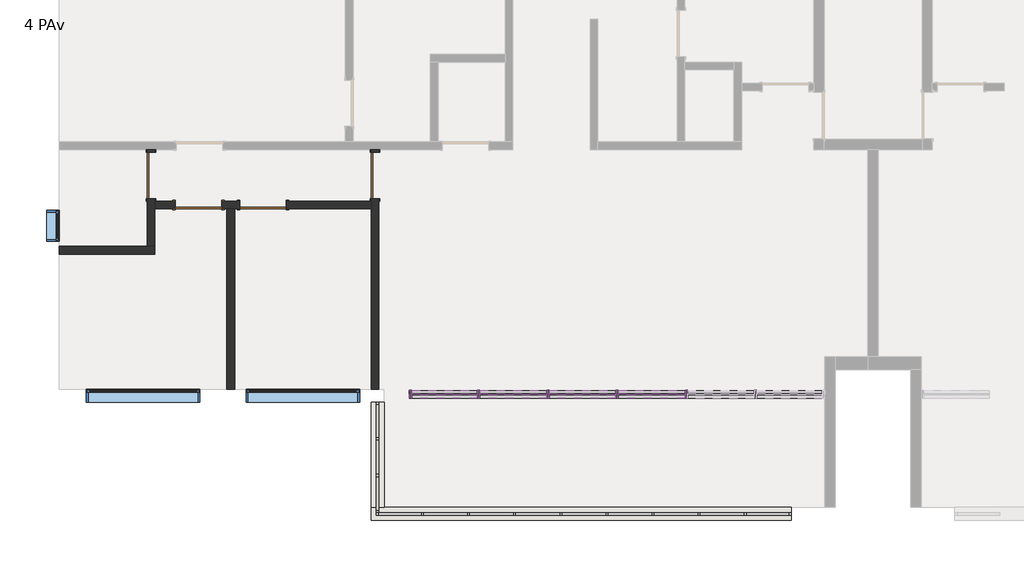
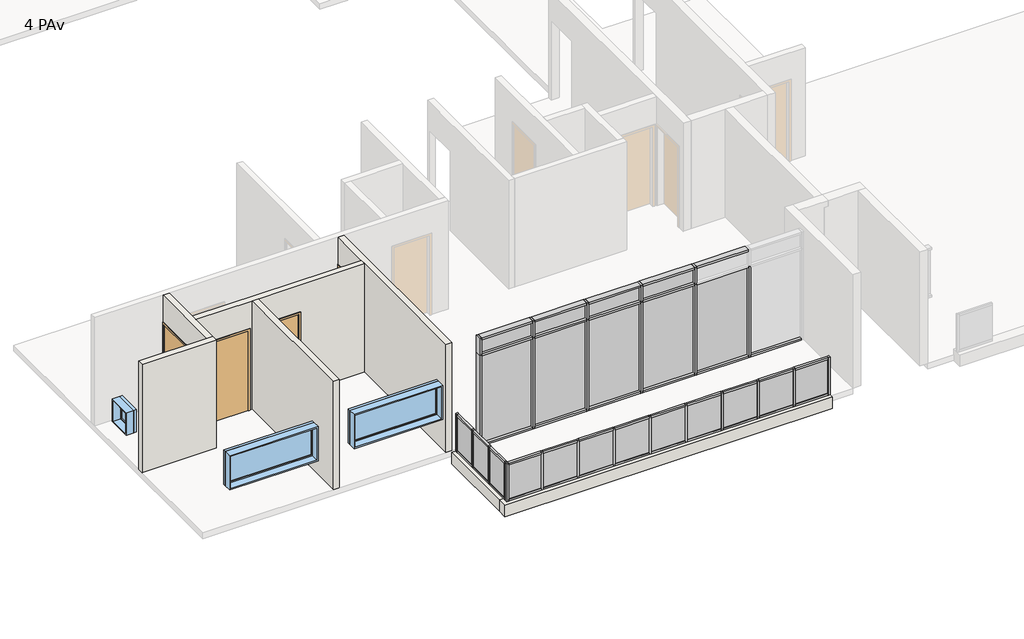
# One storey, part 1 of 6: 64 members, 21 plates, 7 walls, 4 doors, 3 windows.
"""IFC4 building model written with IfcOpenShell, lengths in millimetres."""

from ifc_helpers import new_model, si_unit, frame, origin, place, context, project, spatial, polyline, outline, extrude, faceted_brep, transform, mapped, element, save
from components import door_90_x_210_ee935524, door_90_x_210_565370b3, montante_retangular_50_mm_quadrado_84e40a56, montante_retangular_50_mm_quadrado_3d152aff, montante_retangular_50_mm_quadrado_a01005a4, montante_retangular_50_mm_quadrado_ddd80bd7, montante_retangular_50_mm_quadrado_4acded50, montante_retangular_50_mm_quadrado_237d7072, montante_retangular_50_x_150_mm_6217edde, montante_retangular_50_x_150_mm_a22249d7, montante_retangular_50_x_150_mm_6225e4e3, montante_retangular_50_x_150_mm_567eccab, montante_retangular_50_x_150_mm_1ca2bba2, montante_retangular_50_x_150_mm_6abf4531, montante_retangular_50_x_150_mm_0a8c3443, montante_retangular_50_x_150_mm_662c37b1, painel_do_sistema_0196877a, painel_do_sistema_2aa81470, painel_do_sistema_57ceaf50, painel_do_sistema_ab0ed719, painel_do_sistema_1ecb5f42, painel_do_sistema_49db1829, painel_do_sistema_5ea5287b, painel_do_sistema_7730abee, window_0610_x_0610_mm_da1d4716, window_220_x_90_cea65aae

model = new_model("IFC4")

# Units and contexts
model_context = context("Model", 3, world=origin())
ifc_project = project(units=[si_unit("LENGTHUNIT", "METRE", prefix="MILLI")], contexts=[model_context])

# Site, building, storey
site = spatial("IfcSite", under=ifc_project)
building = spatial("IfcBuilding", under=site)
storey = spatial("IfcBuildingStorey", under=building, Name="4 PAv", Elevation=12000.0)

# Doors
placement = place(None, origin())
door_90_x_210_shape = door_90_x_210_ee935524(model_context)
element("IfcDoor", 1, ObjectType="M_Descarga simples : 90 x 210", at=placement, inside=storey, context=model_context, shape_type="MappedRepresentation", body=[
    mapped(door_90_x_210_shape, transform((-10691.2265742, -8286.3385375, 12000.0), x_axis=(0.0, 1.0, 0.0), y_axis=(-1.0, 0.0, 0.0), z_axis=(0.0, 0.0, 1.0))),
])
element("IfcDoor", 2, ObjectType="M_Descarga simples : 90 x 210", at=placement, inside=storey, context=model_context, shape_type="MappedRepresentation", body=[
    mapped(door_90_x_210_shape, transform((-15041.2265742, -8286.3385375, 12000.0), x_axis=(0.0, 1.0, 0.0), y_axis=(-1.0, 0.0, 0.0), z_axis=(0.0, 0.0, 1.0))),
])
element("IfcDoor", 3, ObjectType="M_Descarga simples : 90 x 210", at=placement, inside=storey, context=model_context, shape_type="MappedRepresentation", body=[
    mapped(door_90_x_210_shape, transform((-12866.2265742, -8861.3385375, 12000.0), x_axis=(-1.0, 0.0, 0.0), y_axis=(0.0, -1.0, 0.0), z_axis=(0.0, 0.0, 1.0))),
])
door_90_x_210_2_shape = door_90_x_210_565370b3(model_context)
element("IfcDoor", 4, ObjectType="M_Descarga simples : 90 x 210", at=placement, inside=storey, context=model_context, shape_type="MappedRepresentation", body=[
    mapped(door_90_x_210_2_shape, transform((-14116.2265742, -8861.3385375, 12000.0), x_axis=(1.0, 0.0, 0.0), y_axis=(0.0, 1.0, 0.0), z_axis=(0.0, 0.0, 1.0))),
])

# Members
montante_retangular_50_mm_quadrado_shape = montante_retangular_50_mm_quadrado_84e40a56(model_context)
element("IfcMember", 5, ObjectType="Montante retangular : 50 mm Quadrado", at=placement, inside=storey, context=model_context, shape_type="MappedRepresentation", body=[
    mapped(montante_retangular_50_mm_quadrado_shape, transform((-3506.2265742, -14856.3385375, 12150.0), x_axis=(-1.0, 0.0, 0.0), y_axis=(0.0, 1.0, 0.0), z_axis=(0.0, 0.0, -1.0))),
])
element("IfcMember", 6, ObjectType="Montante retangular : 50 mm Quadrado", at=placement, inside=storey, context=model_context, shape_type="MappedRepresentation", body=[
    mapped(montante_retangular_50_mm_quadrado_shape, transform((-4401.2265742, -14856.3385375, 12150.0), x_axis=(-1.0, 0.0, 0.0), y_axis=(0.0, 1.0, 0.0), z_axis=(0.0, 0.0, -1.0))),
])
element("IfcMember", 7, ObjectType="Montante retangular : 50 mm Quadrado", at=placement, inside=storey, context=model_context, shape_type="MappedRepresentation", body=[
    mapped(montante_retangular_50_mm_quadrado_shape, transform((-5296.2265742, -14856.3385375, 12150.0), x_axis=(-1.0, 0.0, 0.0), y_axis=(0.0, 1.0, 0.0), z_axis=(0.0, 0.0, -1.0))),
])
element("IfcMember", 8, ObjectType="Montante retangular : 50 mm Quadrado", at=placement, inside=storey, context=model_context, shape_type="MappedRepresentation", body=[
    mapped(montante_retangular_50_mm_quadrado_shape, transform((-6191.2265742, -14856.3385375, 12150.0), x_axis=(-1.0, 0.0, 0.0), y_axis=(0.0, 1.0, 0.0), z_axis=(0.0, 0.0, -1.0))),
])
element("IfcMember", 9, ObjectType="Montante retangular : 50 mm Quadrado", at=placement, inside=storey, context=model_context, shape_type="MappedRepresentation", body=[
    mapped(montante_retangular_50_mm_quadrado_shape, transform((-7086.2265742, -14856.3385375, 12150.0), x_axis=(-1.0, 0.0, 0.0), y_axis=(0.0, 1.0, 0.0), z_axis=(0.0, 0.0, -1.0))),
])
element("IfcMember", 10, ObjectType="Montante retangular : 50 mm Quadrado", at=placement, inside=storey, context=model_context, shape_type="MappedRepresentation", body=[
    mapped(montante_retangular_50_mm_quadrado_shape, transform((-7981.2265742, -14856.3385375, 12150.0), x_axis=(-1.0, 0.0, 0.0), y_axis=(0.0, 1.0, 0.0), z_axis=(0.0, 0.0, -1.0))),
])
element("IfcMember", 11, ObjectType="Montante retangular : 50 mm Quadrado", at=placement, inside=storey, context=model_context, shape_type="MappedRepresentation", body=[
    mapped(montante_retangular_50_mm_quadrado_shape, transform((-8876.2265742, -14856.3385375, 12150.0), x_axis=(-1.0, 0.0, 0.0), y_axis=(0.0, 1.0, 0.0), z_axis=(0.0, 0.0, -1.0))),
])
element("IfcMember", 12, ObjectType="Montante retangular : 50 mm Quadrado", at=placement, inside=storey, context=model_context, shape_type="MappedRepresentation", body=[
    mapped(montante_retangular_50_mm_quadrado_shape, transform((-9771.2265742, -14856.3385375, 12150.0), x_axis=(-1.0, 0.0, 0.0), y_axis=(0.0, 1.0, 0.0), z_axis=(0.0, 0.0, -1.0))),
])
element("IfcMember", 13, ObjectType="Montante retangular : 50 mm Quadrado", at=placement, inside=storey, context=model_context, shape_type="MappedRepresentation", body=[
    mapped(montante_retangular_50_mm_quadrado_shape, transform((-10641.2265742, -14116.3385375, 12150.0), x_axis=(0.0, 1.0, 0.0), y_axis=(1.0, 0.0, 0.0), z_axis=(0.0, 0.0, -1.0))),
])
element("IfcMember", 14, ObjectType="Montante retangular : 50 mm Quadrado", at=placement, inside=storey, context=model_context, shape_type="MappedRepresentation", body=[
    mapped(montante_retangular_50_mm_quadrado_shape, transform((-10641.2265742, -13401.3385375, 12150.0), x_axis=(0.0, 1.0, 0.0), y_axis=(1.0, 0.0, 0.0), z_axis=(0.0, 0.0, -1.0))),
])
montante_retangular_50_mm_quadrado_2_shape = montante_retangular_50_mm_quadrado_3d152aff(model_context)
element("IfcMember", 15, ObjectType="Montante retangular : 50 mm Quadrado", at=placement, inside=storey, context=model_context, shape_type="MappedRepresentation", body=[
    mapped(montante_retangular_50_mm_quadrado_2_shape, transform((-10666.2265742, -14856.3385375, 12150.0), x_axis=(-1.0, 0.0, 0.0), y_axis=(0.0, 1.0, 0.0), z_axis=(0.0, 0.0, -1.0))),
])
element("IfcMember", 16, ObjectType="Montante retangular : 50 mm Quadrado", at=placement, inside=storey, context=model_context, shape_type="MappedRepresentation", body=[
    mapped(montante_retangular_50_mm_quadrado_2_shape, transform((-10641.2265742, -12686.3385375, 12150.0), x_axis=(0.0, 1.0, 0.0), y_axis=(1.0, 0.0, 0.0), z_axis=(0.0, 0.0, -1.0))),
])
element("IfcMember", 17, ObjectType="Montante retangular : 50 mm Quadrado", at=placement, inside=storey, context=model_context, shape_type="MappedRepresentation", body=[
    mapped(montante_retangular_50_mm_quadrado_2_shape, transform((-2611.2265742, -14856.3385375, 13150.0), x_axis=(1.0, 0.0, 0.0), y_axis=(0.0, 1.0, 0.0), z_axis=(0.0, 0.0, 1.0))),
])
element("IfcMember", 18, ObjectType="Montante retangular : 50 mm Quadrado", at=placement, inside=storey, context=model_context, shape_type="MappedRepresentation", body=[
    mapped(montante_retangular_50_mm_quadrado_2_shape, transform((-10641.2265742, -14831.3385375, 13150.0), x_axis=(0.0, -1.0, 0.0), y_axis=(1.0, 0.0, 0.0), z_axis=(0.0, 0.0, 1.0))),
])
montante_retangular_50_mm_quadrado_3_shape = montante_retangular_50_mm_quadrado_a01005a4(model_context)
element("IfcMember", 19, ObjectType="Montante retangular : 50 mm Quadrado", at=placement, inside=storey, context=model_context, shape_type="MappedRepresentation", body=[
    mapped(montante_retangular_50_mm_quadrado_3_shape, transform((-10641.2265742, -12736.3385375, 13150.0), x_axis=(0.0, 0.0, 1.0), y_axis=(1.0, 0.0, 0.0), z_axis=(0.0, 1.0, 0.0))),
])
element("IfcMember", 20, ObjectType="Montante retangular : 50 mm Quadrado", at=placement, inside=storey, context=model_context, shape_type="MappedRepresentation", body=[
    mapped(montante_retangular_50_mm_quadrado_3_shape, transform((-10641.2265742, -14141.3385375, 13150.0), x_axis=(0.0, 0.0, 1.0), y_axis=(1.0, 0.0, 0.0), z_axis=(0.0, 1.0, 0.0))),
])
montante_retangular_50_mm_quadrado_4_shape = montante_retangular_50_mm_quadrado_ddd80bd7(model_context)
element("IfcMember", 21, ObjectType="Montante retangular : 50 mm Quadrado", at=placement, inside=storey, context=model_context, shape_type="MappedRepresentation", body=[
    mapped(montante_retangular_50_mm_quadrado_4_shape, transform((-10641.2265742, -13426.3385375, 13150.0), x_axis=(0.0, 0.0, 1.0), y_axis=(1.0, 0.0, 0.0), z_axis=(0.0, 1.0, 0.0))),
])
element("IfcMember", 22, ObjectType="Montante retangular : 50 mm Quadrado", at=placement, inside=storey, context=model_context, shape_type="MappedRepresentation", body=[
    mapped(montante_retangular_50_mm_quadrado_3_shape, transform((-10641.2265742, -14781.3385375, 12150.0), x_axis=(0.0, 0.0, -1.0), y_axis=(1.0, 0.0, 0.0), z_axis=(0.0, -1.0, 0.0))),
])
element("IfcMember", 23, ObjectType="Montante retangular : 50 mm Quadrado", at=placement, inside=storey, context=model_context, shape_type="MappedRepresentation", body=[
    mapped(montante_retangular_50_mm_quadrado_3_shape, transform((-10641.2265742, -13376.3385375, 12150.0), x_axis=(0.0, 0.0, -1.0), y_axis=(1.0, 0.0, 0.0), z_axis=(0.0, -1.0, 0.0))),
])
element("IfcMember", 24, ObjectType="Montante retangular : 50 mm Quadrado", at=placement, inside=storey, context=model_context, shape_type="MappedRepresentation", body=[
    mapped(montante_retangular_50_mm_quadrado_4_shape, transform((-10641.2265742, -14091.3385375, 12150.0), x_axis=(0.0, 0.0, -1.0), y_axis=(1.0, 0.0, 0.0), z_axis=(0.0, -1.0, 0.0))),
])
montante_retangular_50_mm_quadrado_5_shape = montante_retangular_50_mm_quadrado_4acded50(model_context)
element("IfcMember", 25, ObjectType="Montante retangular : 50 mm Quadrado", at=placement, inside=storey, context=model_context, shape_type="MappedRepresentation", body=[
    mapped(montante_retangular_50_mm_quadrado_5_shape, transform((-10616.2265742, -14856.3385375, 13150.0), x_axis=(0.0, 0.0, 1.0), y_axis=(0.0, 1.0, 0.0), z_axis=(-1.0, 0.0, 0.0))),
])
element("IfcMember", 26, ObjectType="Montante retangular : 50 mm Quadrado", at=placement, inside=storey, context=model_context, shape_type="MappedRepresentation", body=[
    mapped(montante_retangular_50_mm_quadrado_5_shape, transform((-3481.2265742, -14856.3385375, 13150.0), x_axis=(0.0, 0.0, 1.0), y_axis=(0.0, 1.0, 0.0), z_axis=(-1.0, 0.0, 0.0))),
])
montante_retangular_50_mm_quadrado_6_shape = montante_retangular_50_mm_quadrado_237d7072(model_context)
element("IfcMember", 27, ObjectType="Montante retangular : 50 mm Quadrado", at=placement, inside=storey, context=model_context, shape_type="MappedRepresentation", body=[
    mapped(montante_retangular_50_mm_quadrado_6_shape, transform((-4376.2265742, -14856.3385375, 13150.0), x_axis=(0.0, 0.0, 1.0), y_axis=(0.0, 1.0, 0.0), z_axis=(-1.0, 0.0, 0.0))),
])
element("IfcMember", 28, ObjectType="Montante retangular : 50 mm Quadrado", at=placement, inside=storey, context=model_context, shape_type="MappedRepresentation", body=[
    mapped(montante_retangular_50_mm_quadrado_6_shape, transform((-5271.2265742, -14856.3385375, 13150.0), x_axis=(0.0, 0.0, 1.0), y_axis=(0.0, 1.0, 0.0), z_axis=(-1.0, 0.0, 0.0))),
])
element("IfcMember", 29, ObjectType="Montante retangular : 50 mm Quadrado", at=placement, inside=storey, context=model_context, shape_type="MappedRepresentation", body=[
    mapped(montante_retangular_50_mm_quadrado_6_shape, transform((-6166.2265742, -14856.3385375, 13150.0), x_axis=(0.0, 0.0, 1.0), y_axis=(0.0, 1.0, 0.0), z_axis=(-1.0, 0.0, 0.0))),
])
element("IfcMember", 30, ObjectType="Montante retangular : 50 mm Quadrado", at=placement, inside=storey, context=model_context, shape_type="MappedRepresentation", body=[
    mapped(montante_retangular_50_mm_quadrado_6_shape, transform((-7061.2265742, -14856.3385375, 13150.0), x_axis=(0.0, 0.0, 1.0), y_axis=(0.0, 1.0, 0.0), z_axis=(-1.0, 0.0, 0.0))),
])
element("IfcMember", 31, ObjectType="Montante retangular : 50 mm Quadrado", at=placement, inside=storey, context=model_context, shape_type="MappedRepresentation", body=[
    mapped(montante_retangular_50_mm_quadrado_6_shape, transform((-7956.2265742, -14856.3385375, 13150.0), x_axis=(0.0, 0.0, 1.0), y_axis=(0.0, 1.0, 0.0), z_axis=(-1.0, 0.0, 0.0))),
])
element("IfcMember", 32, ObjectType="Montante retangular : 50 mm Quadrado", at=placement, inside=storey, context=model_context, shape_type="MappedRepresentation", body=[
    mapped(montante_retangular_50_mm_quadrado_6_shape, transform((-8851.2265742, -14856.3385375, 13150.0), x_axis=(0.0, 0.0, 1.0), y_axis=(0.0, 1.0, 0.0), z_axis=(-1.0, 0.0, 0.0))),
])
element("IfcMember", 33, ObjectType="Montante retangular : 50 mm Quadrado", at=placement, inside=storey, context=model_context, shape_type="MappedRepresentation", body=[
    mapped(montante_retangular_50_mm_quadrado_6_shape, transform((-9746.2265742, -14856.3385375, 13150.0), x_axis=(0.0, 0.0, 1.0), y_axis=(0.0, 1.0, 0.0), z_axis=(-1.0, 0.0, 0.0))),
])
element("IfcMember", 34, ObjectType="Montante retangular : 50 mm Quadrado", at=placement, inside=storey, context=model_context, shape_type="MappedRepresentation", body=[
    mapped(montante_retangular_50_mm_quadrado_5_shape, transform((-2661.2265742, -14856.3385375, 12150.0), x_axis=(0.0, 0.0, -1.0), y_axis=(0.0, 1.0, 0.0), z_axis=(1.0, 0.0, 0.0))),
])
element("IfcMember", 35, ObjectType="Montante retangular : 50 mm Quadrado", at=placement, inside=storey, context=model_context, shape_type="MappedRepresentation", body=[
    mapped(montante_retangular_50_mm_quadrado_5_shape, transform((-9796.2265742, -14856.3385375, 12150.0), x_axis=(0.0, 0.0, -1.0), y_axis=(0.0, 1.0, 0.0), z_axis=(1.0, 0.0, 0.0))),
])
element("IfcMember", 36, ObjectType="Montante retangular : 50 mm Quadrado", at=placement, inside=storey, context=model_context, shape_type="MappedRepresentation", body=[
    mapped(montante_retangular_50_mm_quadrado_6_shape, transform((-3531.2265742, -14856.3385375, 12150.0), x_axis=(0.0, 0.0, -1.0), y_axis=(0.0, 1.0, 0.0), z_axis=(1.0, 0.0, 0.0))),
])
element("IfcMember", 37, ObjectType="Montante retangular : 50 mm Quadrado", at=placement, inside=storey, context=model_context, shape_type="MappedRepresentation", body=[
    mapped(montante_retangular_50_mm_quadrado_6_shape, transform((-4426.2265742, -14856.3385375, 12150.0), x_axis=(0.0, 0.0, -1.0), y_axis=(0.0, 1.0, 0.0), z_axis=(1.0, 0.0, 0.0))),
])
element("IfcMember", 38, ObjectType="Montante retangular : 50 mm Quadrado", at=placement, inside=storey, context=model_context, shape_type="MappedRepresentation", body=[
    mapped(montante_retangular_50_mm_quadrado_6_shape, transform((-5321.2265742, -14856.3385375, 12150.0), x_axis=(0.0, 0.0, -1.0), y_axis=(0.0, 1.0, 0.0), z_axis=(1.0, 0.0, 0.0))),
])
element("IfcMember", 39, ObjectType="Montante retangular : 50 mm Quadrado", at=placement, inside=storey, context=model_context, shape_type="MappedRepresentation", body=[
    mapped(montante_retangular_50_mm_quadrado_6_shape, transform((-6216.2265742, -14856.3385375, 12150.0), x_axis=(0.0, 0.0, -1.0), y_axis=(0.0, 1.0, 0.0), z_axis=(1.0, 0.0, 0.0))),
])
element("IfcMember", 40, ObjectType="Montante retangular : 50 mm Quadrado", at=placement, inside=storey, context=model_context, shape_type="MappedRepresentation", body=[
    mapped(montante_retangular_50_mm_quadrado_6_shape, transform((-7111.2265742, -14856.3385375, 12150.0), x_axis=(0.0, 0.0, -1.0), y_axis=(0.0, 1.0, 0.0), z_axis=(1.0, 0.0, 0.0))),
])
element("IfcMember", 41, ObjectType="Montante retangular : 50 mm Quadrado", at=placement, inside=storey, context=model_context, shape_type="MappedRepresentation", body=[
    mapped(montante_retangular_50_mm_quadrado_6_shape, transform((-8006.2265742, -14856.3385375, 12150.0), x_axis=(0.0, 0.0, -1.0), y_axis=(0.0, 1.0, 0.0), z_axis=(1.0, 0.0, 0.0))),
])
element("IfcMember", 42, ObjectType="Montante retangular : 50 mm Quadrado", at=placement, inside=storey, context=model_context, shape_type="MappedRepresentation", body=[
    mapped(montante_retangular_50_mm_quadrado_6_shape, transform((-8901.2265742, -14856.3385375, 12150.0), x_axis=(0.0, 0.0, -1.0), y_axis=(0.0, 1.0, 0.0), z_axis=(1.0, 0.0, 0.0))),
])
montante_retangular_50_x_150_mm_shape = montante_retangular_50_x_150_mm_6217edde(model_context)
element("IfcMember", 43, ObjectType="Montante retangular : 50 x 150 mm", at=placement, inside=storey, context=model_context, shape_type="MappedRepresentation", body=[
    mapped(montante_retangular_50_x_150_mm_shape, transform((-8707.0599075, -12536.3385375, 14850.0), x_axis=(0.0, 0.0, 1.0), y_axis=(0.0, -1.0, 0.0), z_axis=(1.0, 0.0, 0.0))),
])
montante_retangular_50_x_150_mm_2_shape = montante_retangular_50_x_150_mm_a22249d7(model_context)
element("IfcMember", 44, ObjectType="Montante retangular : 50 x 150 mm", at=placement, inside=storey, context=model_context, shape_type="MappedRepresentation", body=[
    mapped(montante_retangular_50_x_150_mm_2_shape, transform((-7362.8932408, -12536.3385375, 14850.0), x_axis=(0.0, 0.0, 1.0), y_axis=(0.0, -1.0, 0.0), z_axis=(1.0, 0.0, 0.0))),
])
element("IfcMember", 45, ObjectType="Montante retangular : 50 x 150 mm", at=placement, inside=storey, context=model_context, shape_type="MappedRepresentation", body=[
    mapped(montante_retangular_50_x_150_mm_2_shape, transform((-6018.7265742, -12536.3385375, 14850.0), x_axis=(0.0, 0.0, 1.0), y_axis=(0.0, -1.0, 0.0), z_axis=(1.0, 0.0, 0.0))),
])
element("IfcMember", 46, ObjectType="Montante retangular : 50 x 150 mm", at=placement, inside=storey, context=model_context, shape_type="MappedRepresentation", body=[
    mapped(montante_retangular_50_x_150_mm_2_shape, transform((-4674.5599075, -12536.3385375, 14850.0), x_axis=(0.0, 0.0, 1.0), y_axis=(0.0, -1.0, 0.0), z_axis=(1.0, 0.0, 0.0))),
])
element("IfcMember", 47, ObjectType="Montante retangular : 50 x 150 mm", at=placement, inside=storey, context=model_context, shape_type="MappedRepresentation", body=[
    mapped(montante_retangular_50_x_150_mm_2_shape, transform((-3330.3932408, -12536.3385375, 14850.0), x_axis=(0.0, 0.0, 1.0), y_axis=(0.0, -1.0, 0.0), z_axis=(1.0, 0.0, 0.0))),
])
element("IfcMember", 48, ObjectType="Montante retangular : 50 x 150 mm", at=placement, inside=storey, context=model_context, shape_type="MappedRepresentation", body=[
    mapped(montante_retangular_50_x_150_mm_shape, transform((-9976.2265742, -12536.3385375, 12000.0), x_axis=(0.0, 0.0, -1.0), y_axis=(0.0, -1.0, 0.0), z_axis=(-1.0, 0.0, 0.0))),
])
element("IfcMember", 49, ObjectType="Montante retangular : 50 x 150 mm", at=placement, inside=storey, context=model_context, shape_type="MappedRepresentation", body=[
    mapped(montante_retangular_50_x_150_mm_shape, transform((-3280.3932408, -12536.3385375, 12000.0), x_axis=(0.0, 0.0, -1.0), y_axis=(0.0, -1.0, 0.0), z_axis=(-1.0, 0.0, 0.0))),
])
element("IfcMember", 50, ObjectType="Montante retangular : 50 x 150 mm", at=placement, inside=storey, context=model_context, shape_type="MappedRepresentation", body=[
    mapped(montante_retangular_50_x_150_mm_2_shape, transform((-8657.0599075, -12536.3385375, 12000.0), x_axis=(0.0, 0.0, -1.0), y_axis=(0.0, -1.0, 0.0), z_axis=(-1.0, 0.0, 0.0))),
])
element("IfcMember", 51, ObjectType="Montante retangular : 50 x 150 mm", at=placement, inside=storey, context=model_context, shape_type="MappedRepresentation", body=[
    mapped(montante_retangular_50_x_150_mm_2_shape, transform((-7312.8932408, -12536.3385375, 12000.0), x_axis=(0.0, 0.0, -1.0), y_axis=(0.0, -1.0, 0.0), z_axis=(-1.0, 0.0, 0.0))),
])
element("IfcMember", 52, ObjectType="Montante retangular : 50 x 150 mm", at=placement, inside=storey, context=model_context, shape_type="MappedRepresentation", body=[
    mapped(montante_retangular_50_x_150_mm_2_shape, transform((-5968.7265742, -12536.3385375, 12000.0), x_axis=(0.0, 0.0, -1.0), y_axis=(0.0, -1.0, 0.0), z_axis=(-1.0, 0.0, 0.0))),
])
element("IfcMember", 53, ObjectType="Montante retangular : 50 x 150 mm", at=placement, inside=storey, context=model_context, shape_type="MappedRepresentation", body=[
    mapped(montante_retangular_50_x_150_mm_2_shape, transform((-4624.5599075, -12536.3385375, 12000.0), x_axis=(0.0, 0.0, -1.0), y_axis=(0.0, -1.0, 0.0), z_axis=(-1.0, 0.0, 0.0))),
])
montante_retangular_50_x_150_mm_3_shape = montante_retangular_50_x_150_mm_6225e4e3(model_context)
element("IfcMember", 54, ObjectType="Montante retangular : 50 x 150 mm", at=placement, inside=storey, context=model_context, shape_type="MappedRepresentation", body=[
    mapped(montante_retangular_50_x_150_mm_3_shape, transform((-8682.0599075, -12536.3385375, 12000.0), x_axis=(1.0, 0.0, 0.0), y_axis=(0.0, -1.0, 0.0), z_axis=(0.0, 0.0, -1.0))),
])
element("IfcMember", 55, ObjectType="Montante retangular : 50 x 150 mm", at=placement, inside=storey, context=model_context, shape_type="MappedRepresentation", body=[
    mapped(montante_retangular_50_x_150_mm_3_shape, transform((-7337.8932408, -12536.3385375, 12000.0), x_axis=(1.0, 0.0, 0.0), y_axis=(0.0, -1.0, 0.0), z_axis=(0.0, 0.0, -1.0))),
])
element("IfcMember", 56, ObjectType="Montante retangular : 50 x 150 mm", at=placement, inside=storey, context=model_context, shape_type="MappedRepresentation", body=[
    mapped(montante_retangular_50_x_150_mm_3_shape, transform((-5993.7265742, -12536.3385375, 12000.0), x_axis=(1.0, 0.0, 0.0), y_axis=(0.0, -1.0, 0.0), z_axis=(0.0, 0.0, -1.0))),
])
element("IfcMember", 57, ObjectType="Montante retangular : 50 x 150 mm", at=placement, inside=storey, context=model_context, shape_type="MappedRepresentation", body=[
    mapped(montante_retangular_50_x_150_mm_3_shape, transform((-4649.5599075, -12536.3385375, 12000.0), x_axis=(1.0, 0.0, 0.0), y_axis=(0.0, -1.0, 0.0), z_axis=(0.0, 0.0, -1.0))),
])
element("IfcMember", 58, ObjectType="Montante retangular : 50 x 150 mm", at=placement, inside=storey, context=model_context, shape_type="MappedRepresentation", body=[
    mapped(montante_retangular_50_x_150_mm_3_shape, transform((-3305.3932408, -12536.3385375, 12000.0), x_axis=(1.0, 0.0, 0.0), y_axis=(0.0, -1.0, 0.0), z_axis=(0.0, 0.0, -1.0))),
])
montante_retangular_50_x_150_mm_4_shape = montante_retangular_50_x_150_mm_567eccab(model_context)
element("IfcMember", 59, ObjectType="Montante retangular : 50 x 150 mm", at=placement, inside=storey, context=model_context, shape_type="MappedRepresentation", body=[
    mapped(montante_retangular_50_x_150_mm_4_shape, transform((-8682.0599075, -12536.3385375, 14400.0), x_axis=(1.0, 0.0, 0.0), y_axis=(0.0, -1.0, 0.0), z_axis=(0.0, 0.0, -1.0))),
])
element("IfcMember", 60, ObjectType="Montante retangular : 50 x 150 mm", at=placement, inside=storey, context=model_context, shape_type="MappedRepresentation", body=[
    mapped(montante_retangular_50_x_150_mm_4_shape, transform((-7337.8932408, -12536.3385375, 14400.0), x_axis=(1.0, 0.0, 0.0), y_axis=(0.0, -1.0, 0.0), z_axis=(0.0, 0.0, -1.0))),
])
element("IfcMember", 61, ObjectType="Montante retangular : 50 x 150 mm", at=placement, inside=storey, context=model_context, shape_type="MappedRepresentation", body=[
    mapped(montante_retangular_50_x_150_mm_4_shape, transform((-5993.7265742, -12536.3385375, 14400.0), x_axis=(1.0, 0.0, 0.0), y_axis=(0.0, -1.0, 0.0), z_axis=(0.0, 0.0, -1.0))),
])
element("IfcMember", 62, ObjectType="Montante retangular : 50 x 150 mm", at=placement, inside=storey, context=model_context, shape_type="MappedRepresentation", body=[
    mapped(montante_retangular_50_x_150_mm_4_shape, transform((-4649.5599075, -12536.3385375, 14400.0), x_axis=(1.0, 0.0, 0.0), y_axis=(0.0, -1.0, 0.0), z_axis=(0.0, 0.0, -1.0))),
])
montante_retangular_50_x_150_mm_5_shape = montante_retangular_50_x_150_mm_1ca2bba2(model_context)
element("IfcMember", 63, ObjectType="Montante retangular : 50 x 150 mm", at=placement, inside=storey, context=model_context, shape_type="MappedRepresentation", body=[
    mapped(montante_retangular_50_x_150_mm_5_shape, transform((-8707.0599075, -12536.3385375, 14400.0), x_axis=(0.0, 0.0, 1.0), y_axis=(0.0, -1.0, 0.0), z_axis=(1.0, 0.0, 0.0))),
])
montante_retangular_50_x_150_mm_6_shape = montante_retangular_50_x_150_mm_6abf4531(model_context)
element("IfcMember", 64, ObjectType="Montante retangular : 50 x 150 mm", at=placement, inside=storey, context=model_context, shape_type="MappedRepresentation", body=[
    mapped(montante_retangular_50_x_150_mm_6_shape, transform((-7362.8932408, -12536.3385375, 14400.0), x_axis=(0.0, 0.0, 1.0), y_axis=(0.0, -1.0, 0.0), z_axis=(1.0, 0.0, 0.0))),
])
element("IfcMember", 65, ObjectType="Montante retangular : 50 x 150 mm", at=placement, inside=storey, context=model_context, shape_type="MappedRepresentation", body=[
    mapped(montante_retangular_50_x_150_mm_6_shape, transform((-6018.7265742, -12536.3385375, 14400.0), x_axis=(0.0, 0.0, 1.0), y_axis=(0.0, -1.0, 0.0), z_axis=(1.0, 0.0, 0.0))),
])
element("IfcMember", 66, ObjectType="Montante retangular : 50 x 150 mm", at=placement, inside=storey, context=model_context, shape_type="MappedRepresentation", body=[
    mapped(montante_retangular_50_x_150_mm_6_shape, transform((-4674.5599075, -12536.3385375, 14400.0), x_axis=(0.0, 0.0, 1.0), y_axis=(0.0, -1.0, 0.0), z_axis=(1.0, 0.0, 0.0))),
])
montante_retangular_50_x_150_mm_7_shape = montante_retangular_50_x_150_mm_0a8c3443(model_context)
element("IfcMember", 67, ObjectType="Montante retangular : 50 x 150 mm", at=placement, inside=storey, context=model_context, shape_type="MappedRepresentation", body=[
    mapped(montante_retangular_50_x_150_mm_7_shape, transform((-10026.2265742, -12536.3385375, 14850.0), x_axis=(-1.0, 0.0, 0.0), y_axis=(0.0, -1.0, 0.0), z_axis=(0.0, 0.0, 1.0))),
])
montante_retangular_50_x_150_mm_8_shape = montante_retangular_50_x_150_mm_662c37b1(model_context)
element("IfcMember", 68, ObjectType="Montante retangular : 50 x 150 mm", at=placement, inside=storey, context=model_context, shape_type="MappedRepresentation", body=[
    mapped(montante_retangular_50_x_150_mm_8_shape, transform((-10026.2265742, -12536.3385375, 14400.0), x_axis=(-1.0, 0.0, 0.0), y_axis=(0.0, -1.0, 0.0), z_axis=(0.0, 0.0, 1.0))),
])

# Plates
painel_do_sistema_shape = painel_do_sistema_0196877a(model_context)
element("IfcPlate", 69, ObjectType="Painel do sistema : Envidraçado", at=placement, inside=storey, context=model_context, shape_type="MappedRepresentation", body=[
    mapped(painel_do_sistema_shape, transform((-10641.2265742, -14461.3385375, 12200.0), x_axis=(0.0, 1.0, 0.0), y_axis=(-1.0, 0.0, 0.0), z_axis=(0.0, 0.0, 1.0))),
])
element("IfcPlate", 70, ObjectType="Painel do sistema : Envidraçado", at=placement, inside=storey, context=model_context, shape_type="MappedRepresentation", body=[
    mapped(painel_do_sistema_shape, transform((-10641.2265742, -13056.3385375, 12200.0), x_axis=(0.0, 1.0, 0.0), y_axis=(-1.0, 0.0, 0.0), z_axis=(0.0, 0.0, 1.0))),
])
painel_do_sistema_2_shape = painel_do_sistema_2aa81470(model_context)
element("IfcPlate", 71, ObjectType="Painel do sistema : Envidraçado", at=placement, inside=storey, context=model_context, shape_type="MappedRepresentation", body=[
    mapped(painel_do_sistema_2_shape, transform((-10641.2265742, -13758.8385375, 12200.0), x_axis=(0.0, 1.0, 0.0), y_axis=(-1.0, 0.0, 0.0), z_axis=(0.0, 0.0, 1.0))),
])
painel_do_sistema_3_shape = painel_do_sistema_57ceaf50(model_context)
element("IfcPlate", 72, ObjectType="Painel do sistema : Envidraçado", at=placement, inside=storey, context=model_context, shape_type="MappedRepresentation", body=[
    mapped(painel_do_sistema_3_shape, transform((-3071.2265742, -14856.3385375, 12200.0), x_axis=(-1.0, 0.0, 0.0), y_axis=(0.0, -1.0, 0.0), z_axis=(0.0, 0.0, 1.0))),
])
element("IfcPlate", 73, ObjectType="Painel do sistema : Envidraçado", at=placement, inside=storey, context=model_context, shape_type="MappedRepresentation", body=[
    mapped(painel_do_sistema_3_shape, transform((-10206.2265742, -14856.3385375, 12200.0), x_axis=(-1.0, 0.0, 0.0), y_axis=(0.0, -1.0, 0.0), z_axis=(0.0, 0.0, 1.0))),
])
painel_do_sistema_4_shape = painel_do_sistema_ab0ed719(model_context)
element("IfcPlate", 74, ObjectType="Painel do sistema : Envidraçado", at=placement, inside=storey, context=model_context, shape_type="MappedRepresentation", body=[
    mapped(painel_do_sistema_4_shape, transform((-3953.7265742, -14856.3385375, 12200.0), x_axis=(-1.0, 0.0, 0.0), y_axis=(0.0, -1.0, 0.0), z_axis=(0.0, 0.0, 1.0))),
])
element("IfcPlate", 75, ObjectType="Painel do sistema : Envidraçado", at=placement, inside=storey, context=model_context, shape_type="MappedRepresentation", body=[
    mapped(painel_do_sistema_4_shape, transform((-4848.7265742, -14856.3385375, 12200.0), x_axis=(-1.0, 0.0, 0.0), y_axis=(0.0, -1.0, 0.0), z_axis=(0.0, 0.0, 1.0))),
])
element("IfcPlate", 76, ObjectType="Painel do sistema : Envidraçado", at=placement, inside=storey, context=model_context, shape_type="MappedRepresentation", body=[
    mapped(painel_do_sistema_4_shape, transform((-5743.7265742, -14856.3385375, 12200.0), x_axis=(-1.0, 0.0, 0.0), y_axis=(0.0, -1.0, 0.0), z_axis=(0.0, 0.0, 1.0))),
])
element("IfcPlate", 77, ObjectType="Painel do sistema : Envidraçado", at=placement, inside=storey, context=model_context, shape_type="MappedRepresentation", body=[
    mapped(painel_do_sistema_4_shape, transform((-6638.7265742, -14856.3385375, 12200.0), x_axis=(-1.0, 0.0, 0.0), y_axis=(0.0, -1.0, 0.0), z_axis=(0.0, 0.0, 1.0))),
])
element("IfcPlate", 78, ObjectType="Painel do sistema : Envidraçado", at=placement, inside=storey, context=model_context, shape_type="MappedRepresentation", body=[
    mapped(painel_do_sistema_4_shape, transform((-7533.7265742, -14856.3385375, 12200.0), x_axis=(-1.0, 0.0, 0.0), y_axis=(0.0, -1.0, 0.0), z_axis=(0.0, 0.0, 1.0))),
])
element("IfcPlate", 79, ObjectType="Painel do sistema : Envidraçado", at=placement, inside=storey, context=model_context, shape_type="MappedRepresentation", body=[
    mapped(painel_do_sistema_4_shape, transform((-8428.7265742, -14856.3385375, 12200.0), x_axis=(-1.0, 0.0, 0.0), y_axis=(0.0, -1.0, 0.0), z_axis=(0.0, 0.0, 1.0))),
])
element("IfcPlate", 80, ObjectType="Painel do sistema : Envidraçado", at=placement, inside=storey, context=model_context, shape_type="MappedRepresentation", body=[
    mapped(painel_do_sistema_4_shape, transform((-9323.7265742, -14856.3385375, 12200.0), x_axis=(-1.0, 0.0, 0.0), y_axis=(0.0, -1.0, 0.0), z_axis=(0.0, 0.0, 1.0))),
])
painel_do_sistema_5_shape = painel_do_sistema_1ecb5f42(model_context)
element("IfcPlate", 81, ObjectType="Painel do sistema : Envidraçado", at=placement, inside=storey, context=model_context, shape_type="MappedRepresentation", body=[
    mapped(painel_do_sistema_5_shape, transform((-9341.6432408, -12536.3385375, 12050.0), x_axis=(1.0, 0.0, 0.0), y_axis=(0.0, 1.0, 0.0), z_axis=(0.0, 0.0, 1.0))),
])
painel_do_sistema_6_shape = painel_do_sistema_49db1829(model_context)
element("IfcPlate", 82, ObjectType="Painel do sistema : Envidraçado", at=placement, inside=storey, context=model_context, shape_type="MappedRepresentation", body=[
    mapped(painel_do_sistema_6_shape, transform((-8009.9765742, -12536.3385375, 12050.0), x_axis=(1.0, 0.0, 0.0), y_axis=(0.0, 1.0, 0.0), z_axis=(0.0, 0.0, 1.0))),
])
element("IfcPlate", 83, ObjectType="Painel do sistema : Envidraçado", at=placement, inside=storey, context=model_context, shape_type="MappedRepresentation", body=[
    mapped(painel_do_sistema_6_shape, transform((-6665.8099075, -12536.3385375, 12050.0), x_axis=(1.0, 0.0, 0.0), y_axis=(0.0, 1.0, 0.0), z_axis=(0.0, 0.0, 1.0))),
])
element("IfcPlate", 84, ObjectType="Painel do sistema : Envidraçado", at=placement, inside=storey, context=model_context, shape_type="MappedRepresentation", body=[
    mapped(painel_do_sistema_6_shape, transform((-5321.6432408, -12536.3385375, 12050.0), x_axis=(1.0, 0.0, 0.0), y_axis=(0.0, 1.0, 0.0), z_axis=(0.0, 0.0, 1.0))),
])
element("IfcPlate", 85, ObjectType="Painel do sistema : Envidraçado", at=placement, inside=storey, context=model_context, shape_type="MappedRepresentation", body=[
    mapped(painel_do_sistema_6_shape, transform((-3977.4765742, -12536.3385375, 12050.0), x_axis=(1.0, 0.0, 0.0), y_axis=(0.0, 1.0, 0.0), z_axis=(0.0, 0.0, 1.0))),
])
painel_do_sistema_7_shape = painel_do_sistema_5ea5287b(model_context)
element("IfcPlate", 86, ObjectType="Painel do sistema : Envidraçado", at=placement, inside=storey, context=model_context, shape_type="MappedRepresentation", body=[
    mapped(painel_do_sistema_7_shape, transform((-9341.6432408, -12536.3385375, 14425.0), x_axis=(1.0, 0.0, 0.0), y_axis=(0.0, 1.0, 0.0), z_axis=(0.0, 0.0, 1.0))),
])
painel_do_sistema_8_shape = painel_do_sistema_7730abee(model_context)
element("IfcPlate", 87, ObjectType="Painel do sistema : Envidraçado", at=placement, inside=storey, context=model_context, shape_type="MappedRepresentation", body=[
    mapped(painel_do_sistema_8_shape, transform((-8009.9765742, -12536.3385375, 14425.0), x_axis=(1.0, 0.0, 0.0), y_axis=(0.0, 1.0, 0.0), z_axis=(0.0, 0.0, 1.0))),
])
element("IfcPlate", 88, ObjectType="Painel do sistema : Envidraçado", at=placement, inside=storey, context=model_context, shape_type="MappedRepresentation", body=[
    mapped(painel_do_sistema_8_shape, transform((-6665.8099075, -12536.3385375, 14425.0), x_axis=(1.0, 0.0, 0.0), y_axis=(0.0, 1.0, 0.0), z_axis=(0.0, 0.0, 1.0))),
])
element("IfcPlate", 89, ObjectType="Painel do sistema : Envidraçado", at=placement, inside=storey, context=model_context, shape_type="MappedRepresentation", body=[
    mapped(painel_do_sistema_8_shape, transform((-5321.6432408, -12536.3385375, 14425.0), x_axis=(1.0, 0.0, 0.0), y_axis=(0.0, 1.0, 0.0), z_axis=(0.0, 0.0, 1.0))),
])

# Walls
element("IfcWall", 90, ObjectType="Exeterna 25", at=placement, inside=storey, context=model_context, shape_type="Brep", body=[
    faceted_brep([(-2611.2265742, -14731.3385375, 11850.0), (-10516.2265742, -14731.3385375, 11850.0), (-10766.2265742, -14731.3385375, 11850.0), (-10766.2265742, -14731.3385375, 12150.0), (-10516.2265742, -14731.3385375, 12150.0), (-2611.2265742, -14731.3385375, 12150.0), (-2611.2265742, -14981.3385375, 11850.0), (-2611.2265742, -14981.3385375, 12150.0), (-10766.2265742, -14981.3385375, 12150.0), (-10766.2265742, -14981.3385375, 11850.0)], [[[0, 1, 2, 3, 4, 5]], [[6, 7, 8, 9]], [[2, 1, 0, 6, 9]], [[5, 4, 3, 8, 7]], [[0, 5, 7, 6]], [[3, 2, 9, 8]]]),
])
element("IfcWall", 91, ObjectType="Exeterna 25", at=placement, inside=storey, context=model_context, shape_type="SweptSolid", body=[
    extrude(outline(polyline([(-10516.2265742, -12686.3385375), (-10516.2265742, -14731.3385375), (-10766.2265742, -14731.3385375), (-10766.2265742, -12686.3385375), (-10516.2265742, -12686.3385375)])), frame((0.0, 0.0, 11850.0), z_axis=(0.0, 0.0, 1.0), x_axis=(1.0, 0.0, 0.0)), (0.0, 0.0, 1.0), 300.0),
])
element("IfcWall", 92, ObjectType="Interna 15", at=placement, inside=storey, context=model_context, shape_type="Brep", body=[
    faceted_brep([(-10616.2265742, -7836.3385375, 14100.0), (-10616.2265742, -7836.3385375, 12000.0), (-10616.2265742, -7786.3385375, 12000.0), (-10616.2265742, -7786.3385375, 14850.0), (-10616.2265742, -12436.3385375, 14850.0), (-10616.2265742, -12436.3385375, 12000.0), (-10616.2265742, -8736.3385375, 12000.0), (-10616.2265742, -8736.3385375, 14100.0), (-10766.2265742, -7786.3385375, 12000.0), (-10766.2265742, -7836.3385375, 12000.0), (-10766.2265742, -7836.3385375, 14100.0), (-10766.2265742, -8736.3385375, 14100.0), (-10766.2265742, -8736.3385375, 12000.0), (-10766.2265742, -8786.3385375, 12000.0), (-10766.2265742, -8936.3385375, 12000.0), (-10766.2265742, -12436.3385375, 12000.0), (-10766.2265742, -12436.3385375, 14850.0), (-10766.2265742, -8936.3385375, 14850.0), (-10766.2265742, -8786.3385375, 14850.0), (-10766.2265742, -7786.3385375, 14850.0)], [[[0, 1, 2, 3, 4, 5, 6, 7]], [[8, 9, 10, 11, 12, 13, 14, 15, 16, 17, 18, 19]], [[6, 5, 15, 14, 13, 12]], [[2, 1, 9, 8]], [[4, 3, 19, 18, 17, 16]], [[3, 2, 8, 19]], [[10, 9, 1, 0]], [[11, 10, 0, 7]], [[12, 11, 7, 6]], [[5, 4, 16, 15]]]),
])
element("IfcWall", 93, ObjectType="Interna 15", at=placement, inside=storey, context=model_context, shape_type="Brep", body=[
    faceted_brep([(-13316.2265742, -8786.3385375, 12000.0), (-13666.2265742, -8786.3385375, 12000.0), (-13666.2265742, -8786.3385375, 14100.0), (-14566.2265742, -8786.3385375, 14100.0), (-14566.2265742, -8786.3385375, 12000.0), (-14966.2265742, -8786.3385375, 12000.0), (-14966.2265742, -8786.3385375, 14850.0), (-10766.2265742, -8786.3385375, 14850.0), (-10766.2265742, -8786.3385375, 12000.0), (-12416.2265742, -8786.3385375, 12000.0), (-12416.2265742, -8786.3385375, 14100.0), (-13316.2265742, -8786.3385375, 14100.0), (-13666.2265742, -8936.3385375, 14100.0), (-13666.2265742, -8936.3385375, 12000.0), (-13566.2265742, -8936.3385375, 12000.0), (-13416.2265742, -8936.3385375, 12000.0), (-13316.2265742, -8936.3385375, 12000.0), (-13316.2265742, -8936.3385375, 14100.0), (-12416.2265742, -8936.3385375, 14100.0), (-12416.2265742, -8936.3385375, 12000.0), (-10766.2265742, -8936.3385375, 12000.0), (-10766.2265742, -8936.3385375, 14850.0), (-13416.2265742, -8936.3385375, 14850.0), (-13566.2265742, -8936.3385375, 14850.0), (-14966.2265742, -8936.3385375, 14850.0), (-14966.2265742, -8936.3385375, 12000.0), (-14566.2265742, -8936.3385375, 12000.0), (-14566.2265742, -8936.3385375, 14100.0)], [[[0, 1, 2, 3, 4, 5, 6, 7, 8, 9, 10, 11]], [[12, 13, 14, 15, 16, 17, 18, 19, 20, 21, 22, 23, 24, 25, 26, 27]], [[9, 8, 20, 19]], [[26, 25, 5, 4]], [[16, 15, 14, 13, 1, 0]], [[7, 6, 24, 23, 22, 21]], [[8, 7, 21, 20]], [[6, 5, 25, 24]], [[17, 16, 0, 11]], [[18, 17, 11, 10]], [[19, 18, 10, 9]], [[2, 1, 13, 12]], [[3, 2, 12, 27]], [[4, 3, 27, 26]]]),
])
element("IfcWall", 94, ObjectType="Interna 15", at=placement, inside=storey, context=model_context, shape_type="SweptSolid", body=[
    extrude(outline(polyline([(-13566.2265742, -12436.3385375), (-13566.2265742, -8936.3385375), (-13416.2265742, -8936.3385375), (-13416.2265742, -12436.3385375), (-13566.2265742, -12436.3385375)])), frame((0.0, 0.0, 12000.0), z_axis=(0.0, 0.0, 1.0), x_axis=(1.0, 0.0, 0.0)), (0.0, 0.0, 1.0), 2850.0),
])
element("IfcWall", 95, ObjectType="Interna 15", at=placement, inside=storey, context=model_context, shape_type="Brep", body=[
    faceted_brep([(-16816.2265742, -9816.3385375, 12000.0), (-14966.2265742, -9816.3385375, 12000.0), (-14966.2265742, -9816.3385375, 14850.0), (-16816.2265742, -9816.3385375, 14850.0), (-16816.2265742, -9666.3385375, 12000.0), (-16816.2265742, -9666.3385375, 14850.0), (-15116.2265742, -9666.3385375, 14850.0), (-14966.2265742, -9666.3385375, 14850.0), (-14966.2265742, -9666.3385375, 12000.0), (-15116.2265742, -9666.3385375, 12000.0)], [[[0, 1, 2, 3]], [[4, 5, 6, 7, 8, 9]], [[1, 0, 4, 9, 8]], [[3, 2, 7, 6, 5]], [[2, 1, 8, 7]], [[0, 3, 5, 4]]]),
])
element("IfcWall", 96, ObjectType="Interna 15", at=placement, inside=storey, context=model_context, shape_type="Brep", body=[
    faceted_brep([(-14966.2265742, -7836.3385375, 14100.0), (-14966.2265742, -7836.3385375, 12000.0), (-14966.2265742, -7786.3385375, 12000.0), (-14966.2265742, -7786.3385375, 14850.0), (-14966.2265742, -8786.3385375, 14850.0), (-14966.2265742, -8936.3385375, 14850.0), (-14966.2265742, -9666.3385375, 14850.0), (-14966.2265742, -9666.3385375, 12000.0), (-14966.2265742, -8936.3385375, 12000.0), (-14966.2265742, -8786.3385375, 12000.0), (-14966.2265742, -8736.3385375, 12000.0), (-14966.2265742, -8736.3385375, 14100.0), (-15116.2265742, -7786.3385375, 12000.0), (-15116.2265742, -7836.3385375, 12000.0), (-15116.2265742, -7836.3385375, 14100.0), (-15116.2265742, -8736.3385375, 14100.0), (-15116.2265742, -8736.3385375, 12000.0), (-15116.2265742, -9666.3385375, 12000.0), (-15116.2265742, -9666.3385375, 14850.0), (-15116.2265742, -7786.3385375, 14850.0)], [[[0, 1, 2, 3, 4, 5, 6, 7, 8, 9, 10, 11]], [[12, 13, 14, 15, 16, 17, 18, 19]], [[2, 1, 13, 12]], [[10, 9, 8, 7, 17, 16]], [[6, 5, 4, 3, 19, 18]], [[3, 2, 12, 19]], [[7, 6, 18, 17]], [[14, 13, 1, 0]], [[15, 14, 0, 11]], [[16, 15, 11, 10]]]),
])

# Windows
window_0610_x_0610_mm_shape = window_0610_x_0610_mm_da1d4716(model_context)
element("IfcWindow", 97, ObjectType="M_Fixado : 0610 x 0610 mm", at=placement, inside=storey, context=model_context, shape_type="MappedRepresentation", body=[
    mapped(window_0610_x_0610_mm_shape, transform((-16954.2265742, -9266.3385375, 12000.0), x_axis=(0.0, -1.0, 0.0), y_axis=(1.0, 0.0, 0.0), z_axis=(0.0, 0.0, 1.0))),
])
window_220_x_90_shape = window_220_x_90_cea65aae(model_context)
element("IfcWindow", 98, ObjectType="M_Fixado : 220 x 90", at=placement, inside=storey, context=model_context, shape_type="MappedRepresentation", body=[
    mapped(window_220_x_90_shape, transform((-12091.2265742, -12574.3385375, 12185.0), x_axis=(1.0, 0.0, 0.0), y_axis=(0.0, 1.0, 0.0), z_axis=(0.0, 0.0, 1.0))),
])
element("IfcWindow", 99, ObjectType="M_Fixado : 220 x 90", at=placement, inside=storey, context=model_context, shape_type="MappedRepresentation", body=[
    mapped(window_220_x_90_shape, transform((-15191.2265742, -12574.3385375, 12185.0), x_axis=(1.0, 0.0, 0.0), y_axis=(0.0, 1.0, 0.0), z_axis=(0.0, 0.0, 1.0))),
])

save(model, "model.ifc")
